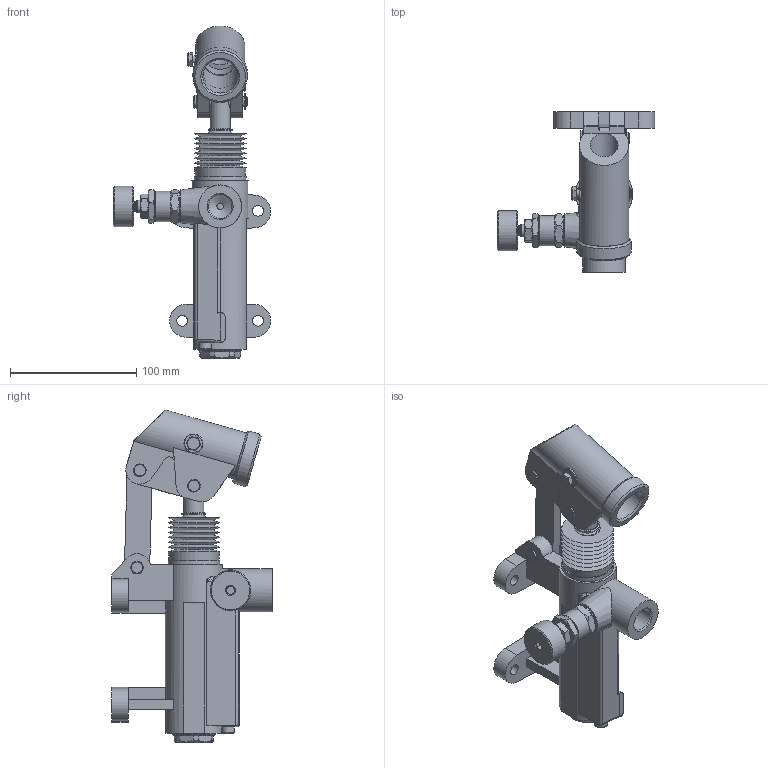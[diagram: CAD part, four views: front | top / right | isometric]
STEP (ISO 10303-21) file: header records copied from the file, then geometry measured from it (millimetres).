
FILE_DESCRIPTION(/* description */ ('Unknown'),/* implementation_level */ '2;1');
FILE_NAME(/* name */ 'HP50RS',/* time_stamp */ '2024-11-27T14:44:16+01:00',/* author */ ('Unknown'),/* organization */ ('Unknown'),/* preprocessor_version */ 'ST-DEVELOPER v19.4',/* originating_system */ 'Solid Edge',/* authorisation */ 'Unknown');
FILE_SCHEMA (('AUTOMOTIVE_DESIGN {1 0 10303 214 3 1 1}'));
Length unit declared in the file: millimetre
Products named in the file (1): HP50RS
Bounding box: 124.43 x 126.87 x 262.57 mm (x, y, z)
Volume: 115042.4 mm3; surface area: 144608.1 mm2
Topology: 6 solids, 7 shells, 593 faces, 1481 edges, 941 vertices
Faces by surface type: plane 264, cylinder 194, cone 97, torus 21, bspline 13, sphere 4
Full cylindrical faces by diameter (mm): 1.698 x2, 1.798 x2, 1.998 x2, 2.997 x2, 3.996 x1, 4.912 x1, 4.995 x2, 5.095 x5, 5.145 x1, 5.994 x4, 6 x2, 7.592 x1, 7.792 x7, 7.942 x1, 7.992 x5, 8.092 x3, 8.1 x4, 8.392 x1, 8.591 x4, 9.99 x7, 10.366 x1, 10.989 x2, 12.188 x2, 12.987 x1, 14.486 x1, 14.885 x3, 14.935 x1, 14.985 x1, 15.185 x1, 15.784 x1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
Entity records: 21127 total; most frequent: CARTESIAN_POINT 5037, DIRECTION 2732, ORIENTED_EDGE 2324, EDGE_CURVE 1162, AXIS2_PLACEMENT_3D 1124, FACE_BOUND 902, EDGE_LOOP 900, VERTEX_POINT 832
